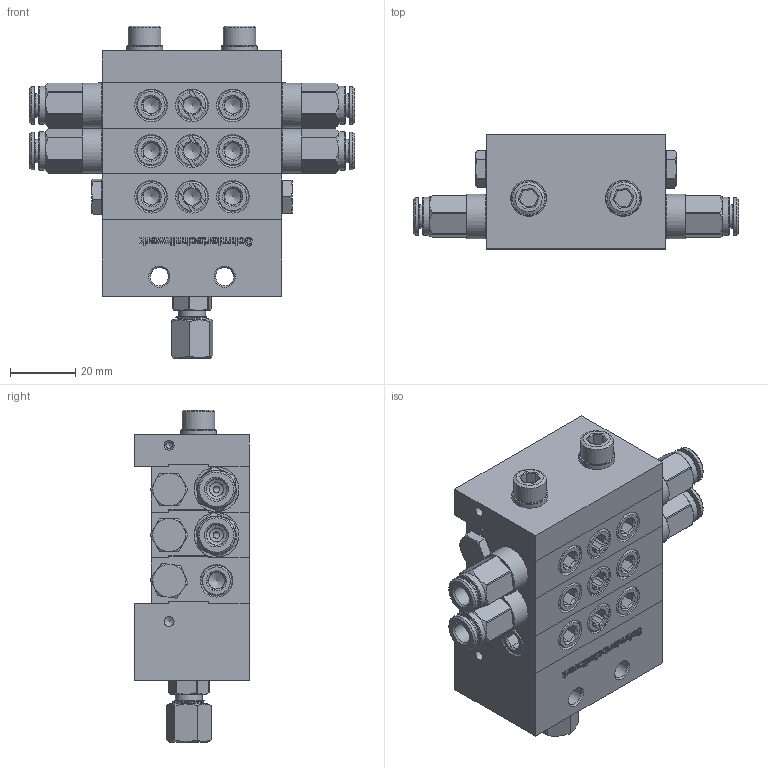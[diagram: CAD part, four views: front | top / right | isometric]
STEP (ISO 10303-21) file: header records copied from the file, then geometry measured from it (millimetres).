
FILE_DESCRIPTION (( 'STEP AP214' ), '1' );
FILE_NAME ('STW_XV_0143_04_0502_04_Auslässe.STEP', '2026-02-04T11:00:57', ( '' ), ( '' ), 'SwSTEP 2.0', 'SolidWorks 2022', '' );
FILE_SCHEMA (( 'AUTOMOTIVE_DESIGN' ));
Length unit declared in the file: millimetre
Products named in the file (18): DR6-C_HDX_25.07.16_1; M6X65_DIN_912; 991214010601_Mutter; STW_XV_Verbindungsstopen; 991214010601; STW_XV_ENGANG; STW_XV_0143_04_0502_04_Auslässe; 991214010601_Koerper; H200139_HDS01_6_M10X1_08.05.17; Verschlussstopfen_1_8_2; OR 7.66X1.78_1; STW_XV_MITTEL_1; U_Scheibe_6; STW_XV_Kolbenanschlag; STW_XV_END; RIVOLUZIONE_0_2; 991214010601_Schneidring; Verschlussstopfen_1_8
Assembly tree (37 placements, depth 3):
  STW_XV_0143_04_0502_04_Auslässe
    STW_XV_ENGANG
    STW_XV_MITTEL_1  x3
    STW_XV_END
    Verschlussstopfen_1_8_2  x6
    STW_XV_Kolbenanschlag  x6
    STW_XV_Verbindungsstopen  x3
    M6X65_DIN_912  x2
    U_Scheibe_6  x2
    991214010601
      991214010601_Koerper
      991214010601_Schneidring
      991214010601_Mutter
    H200139_HDS01_6_M10X1_08.05.17  x4
      OR 7.66X1.78_1
      DR6-C_HDX_25.07.16_1
      RIVOLUZIONE_0_2
    Verschlussstopfen_1_8  x2
Bounding box: 99.6 x 35 x 101.68 mm (x, y, z)
Volume: 136606.8 mm3; surface area: 69942.6 mm2
Topology: 41 solids, 41 shells, 1483 faces, 3823 edges, 2458 vertices
Faces by surface type: plane 736, cylinder 347, cone 264, bspline 130, torus 6
Full cylindrical faces by diameter (mm): 2 x89, 3 x10, 4.2 x4, 4.5 x1, 5 x38, 5.5 x2, 5.9 x2, 6 x3, 6.2 x13, 6.3 x4, 6.4 x2, 6.5 x6, 7 x6, 7.2 x4, 7.4 x1, 7.67 x1, 8 x7, 8.3 x1, 8.4 x3, 8.5 x4, 8.6 x15, 9 x8, 9.7 x8, 9.73 x3, 9.8 x7, 9.9 x4, 10 x16, 10.3 x4, 11 x2, 11.5 x4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
Entity records: 45478 total; most frequent: CARTESIAN_POINT 22428, ORIENTED_EDGE 3064, DIRECTION 2675, EDGE_CURVE 1532, VERTEX_POINT 1095, EDGE_LOOP 1035, AXIS2_PLACEMENT_3D 955, FACE_OUTER_BOUND 832
